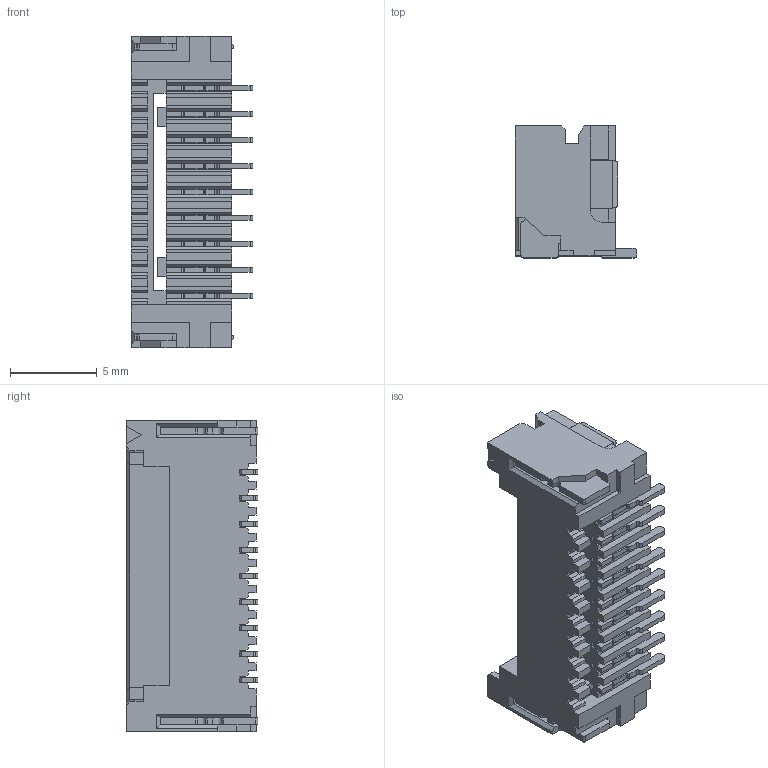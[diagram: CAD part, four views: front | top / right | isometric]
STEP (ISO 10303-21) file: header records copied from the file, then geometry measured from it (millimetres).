
FILE_DESCRIPTION (( 'STEP AP214' ), '1' );
FILE_NAME ('HC-ZE-9ALT（立贴-HCTL）.STEP', '2024-10-08T07:24:17', ( '' ), ( '' ), 'SwSTEP 2.0', 'SolidWorks 2022', '' );
FILE_SCHEMA (( 'AUTOMOTIVE_DESIGN' ));
Length unit declared in the file: millimetre
Products named in the file (1): HC-ZE-9ALT（立贴-HCTL）
Bounding box: 7 x 7.6 x 17.98 mm (x, y, z)
Volume: 354 mm3; surface area: 1365 mm2
Topology: 10 solids, 10 shells, 878 faces, 2623 edges, 1734 vertices
Faces by surface type: plane 669, cylinder 209
Entity records: 29958 total; most frequent: ORIENTED_EDGE 5246, CARTESIAN_POINT 5236, DIRECTION 4799, EDGE_CURVE 2623, VECTOR 2205, LINE 2205, VERTEX_POINT 1734, AXIS2_PLACEMENT_3D 1297
